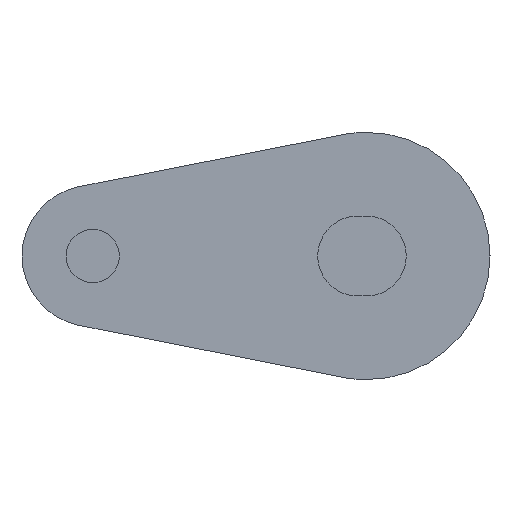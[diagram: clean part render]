
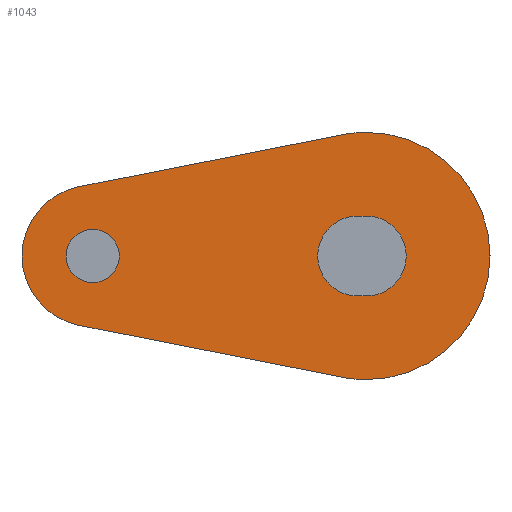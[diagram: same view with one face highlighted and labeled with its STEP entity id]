
A CAD part, left-side view. The second image highlights one B-rep face of the part: STEP entity #1043.
In plain terms, the highlighted planar face has unit normal (-1, 0, 0).
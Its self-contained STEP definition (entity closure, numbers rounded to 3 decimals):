
#6 = CIRCLE ( 'NONE', #497, 2.26 ) ;
#23 = VECTOR ( 'NONE', #959, 1000. ) ;
#24 = LINE ( 'NONE', #960, #23 ) ;
#31 = CIRCLE ( 'NONE', #544, 7. ) ;
#46 = CIRCLE ( 'NONE', #506, 1.51 ) ;
#48 = CIRCLE ( 'NONE', #459, 4. ) ;
#49 = CIRCLE ( 'NONE', #436, 7. ) ;
#50 = CIRCLE ( 'NONE', #412, 7. ) ;
#51 = VECTOR ( 'NONE', #980, 1000. ) ;
#52 = LINE ( 'NONE', #974, #51 ) ;
#68 = VECTOR ( 'NONE', #569, 1000. ) ;
#76 = LINE ( 'NONE', #574, #68 ) ;
#101 = CIRCLE ( 'NONE', #448, 1.51 ) ;
#107 = LINE ( 'NONE', #677, #114 ) ;
#114 = VECTOR ( 'NONE', #653, 1000. ) ;
#119 = CIRCLE ( 'NONE', #539, 2.26 ) ;
#205 = EDGE_LOOP ( 'NONE', ( #320, #237, #253, #254, #270, #271 ) ) ;
#225 = ORIENTED_EDGE ( 'NONE', *, *, #404, .T. ) ;
#237 = ORIENTED_EDGE ( 'NONE', *, *, #415, .F. ) ;
#240 = ORIENTED_EDGE ( 'NONE', *, *, #557, .T. ) ;
#241 = ORIENTED_EDGE ( 'NONE', *, *, #541, .T. ) ;
#249 = ORIENTED_EDGE ( 'NONE', *, *, #469, .T. ) ;
#253 = ORIENTED_EDGE ( 'NONE', *, *, #500, .F. ) ;
#254 = ORIENTED_EDGE ( 'NONE', *, *, #530, .F. ) ;
#270 = ORIENTED_EDGE ( 'NONE', *, *, #503, .F. ) ;
#271 = ORIENTED_EDGE ( 'NONE', *, *, #504, .F. ) ;
#296 = EDGE_LOOP ( 'NONE', ( #225, #249, #240, #241 ) ) ;
#297 = EDGE_LOOP ( 'NONE', ( #309, #324 ) ) ;
#309 = ORIENTED_EDGE ( 'NONE', *, *, #417, .T. ) ;
#320 = ORIENTED_EDGE ( 'NONE', *, *, #505, .F. ) ;
#324 = ORIENTED_EDGE ( 'NONE', *, *, #507, .T. ) ;
#346 = FACE_BOUND ( 'NONE', #296, .T. ) ;
#350 = FACE_BOUND ( 'NONE', #297, .T. ) ;
#352 = FACE_OUTER_BOUND ( 'NONE', #205, .T. ) ;
#404 = EDGE_CURVE ( 'NONE', #683, #723, #119, .T. ) ;
#412 = AXIS2_PLACEMENT_3D ( 'NONE', #968, #966, #973 ) ;
#415 = EDGE_CURVE ( 'NONE', #731, #682, #107, .T. ) ;
#417 = EDGE_CURVE ( 'NONE', #684, #689, #101, .T. ) ;
#436 = AXIS2_PLACEMENT_3D ( 'NONE', #1011, #976, #975 ) ;
#448 = AXIS2_PLACEMENT_3D ( 'NONE', #652, #627, #626 ) ;
#459 = AXIS2_PLACEMENT_3D ( 'NONE', #979, #978, #977 ) ;
#469 = EDGE_CURVE ( 'NONE', #723, #672, #76, .T. ) ;
#497 = AXIS2_PLACEMENT_3D ( 'NONE', #948, #931, #930 ) ;
#500 = EDGE_CURVE ( 'NONE', #687, #731, #50, .T. ) ;
#502 = AXIS2_PLACEMENT_3D ( 'NONE', #787, #786, #796 ) ;
#503 = EDGE_CURVE ( 'NONE', #690, #709, #49, .T. ) ;
#504 = EDGE_CURVE ( 'NONE', #718, #690, #52, .T. ) ;
#505 = EDGE_CURVE ( 'NONE', #682, #718, #48, .T. ) ;
#506 = AXIS2_PLACEMENT_3D ( 'NONE', #965, #963, #962 ) ;
#507 = EDGE_CURVE ( 'NONE', #689, #684, #46, .T. ) ;
#530 = EDGE_CURVE ( 'NONE', #709, #687, #31, .T. ) ;
#539 = AXIS2_PLACEMENT_3D ( 'NONE', #660, #659, #703 ) ;
#541 = EDGE_CURVE ( 'NONE', #635, #683, #24, .T. ) ;
#544 = AXIS2_PLACEMENT_3D ( 'NONE', #993, #1004, #1003 ) ;
#557 = EDGE_CURVE ( 'NONE', #672, #635, #6, .T. ) ;
#569 = DIRECTION ( 'NONE',  ( 0., -1., 0. ) ) ;
#574 = CARTESIAN_POINT ( 'NONE',  ( -478.5, 0.5, 2.26 ) ) ;
#626 = DIRECTION ( 'NONE',  ( 0., 0., -1. ) ) ;
#627 = DIRECTION ( 'NONE',  ( 1., 0., 0. ) ) ;
#635 = VERTEX_POINT ( 'NONE', #921 ) ;
#652 = CARTESIAN_POINT ( 'NONE',  ( -478.5, 15.5, 0. ) ) ;
#653 = DIRECTION ( 'NONE',  ( 0., 0.981, 0.194 ) ) ;
#659 = DIRECTION ( 'NONE',  ( 1., 0., 0. ) ) ;
#660 = CARTESIAN_POINT ( 'NONE',  ( -478.5, 0.5, 0. ) ) ;
#672 = VERTEX_POINT ( 'NONE', #880 ) ;
#677 = CARTESIAN_POINT ( 'NONE',  ( -478.5, 1.355, -6.868 ) ) ;
#682 = VERTEX_POINT ( 'NONE', #884 ) ;
#683 = VERTEX_POINT ( 'NONE', #883 ) ;
#684 = VERTEX_POINT ( 'NONE', #882 ) ;
#687 = VERTEX_POINT ( 'NONE', #886 ) ;
#689 = VERTEX_POINT ( 'NONE', #889 ) ;
#690 = VERTEX_POINT ( 'NONE', #888 ) ;
#703 = DIRECTION ( 'NONE',  ( 0., 0., -1. ) ) ;
#709 = VERTEX_POINT ( 'NONE', #861 ) ;
#718 = VERTEX_POINT ( 'NONE', #858 ) ;
#723 = VERTEX_POINT ( 'NONE', #857 ) ;
#731 = VERTEX_POINT ( 'NONE', #915 ) ;
#780 = PLANE ( 'NONE',  #502 ) ;
#786 = DIRECTION ( 'NONE',  ( -1., 0., 0. ) ) ;
#787 = CARTESIAN_POINT ( 'NONE',  ( -478.5, 15.5, 0. ) ) ;
#796 = DIRECTION ( 'NONE',  ( 0., 0., -1. ) ) ;
#857 = CARTESIAN_POINT ( 'NONE',  ( -478.5, 0.5, 2.26 ) ) ;
#858 = CARTESIAN_POINT ( 'NONE',  ( -478.5, 16.274, 3.924 ) ) ;
#861 = CARTESIAN_POINT ( 'NONE',  ( -478.5, 0., 7. ) ) ;
#880 = CARTESIAN_POINT ( 'NONE',  ( -478.5, 0., 2.26 ) ) ;
#882 = CARTESIAN_POINT ( 'NONE',  ( -478.5, 15.5, -1.51 ) ) ;
#883 = CARTESIAN_POINT ( 'NONE',  ( -478.5, 0.5, -2.26 ) ) ;
#884 = CARTESIAN_POINT ( 'NONE',  ( -478.5, 16.274, -3.924 ) ) ;
#886 = CARTESIAN_POINT ( 'NONE',  ( -478.5, 0., -7. ) ) ;
#888 = CARTESIAN_POINT ( 'NONE',  ( -478.5, 1.355, 6.868 ) ) ;
#889 = CARTESIAN_POINT ( 'NONE',  ( -478.5, 15.5, 1.51 ) ) ;
#915 = CARTESIAN_POINT ( 'NONE',  ( -478.5, 1.355, -6.868 ) ) ;
#921 = CARTESIAN_POINT ( 'NONE',  ( -478.5, 0., -2.26 ) ) ;
#930 = DIRECTION ( 'NONE',  ( 0., 0., -1. ) ) ;
#931 = DIRECTION ( 'NONE',  ( 1., 0., 0. ) ) ;
#948 = CARTESIAN_POINT ( 'NONE',  ( -478.5, 0., 0. ) ) ;
#959 = DIRECTION ( 'NONE',  ( 0., 1., 0. ) ) ;
#960 = CARTESIAN_POINT ( 'NONE',  ( -478.5, 0.5, -2.26 ) ) ;
#962 = DIRECTION ( 'NONE',  ( 0., 0., -1. ) ) ;
#963 = DIRECTION ( 'NONE',  ( 1., 0., 0. ) ) ;
#965 = CARTESIAN_POINT ( 'NONE',  ( -478.5, 15.5, 0. ) ) ;
#966 = DIRECTION ( 'NONE',  ( 1., 0., 0. ) ) ;
#968 = CARTESIAN_POINT ( 'NONE',  ( -478.5, 0., 0. ) ) ;
#973 = DIRECTION ( 'NONE',  ( 0., 0., -1. ) ) ;
#974 = CARTESIAN_POINT ( 'NONE',  ( -478.5, 16.274, 3.924 ) ) ;
#975 = DIRECTION ( 'NONE',  ( 0., 0., -1. ) ) ;
#976 = DIRECTION ( 'NONE',  ( 1., 0., 0. ) ) ;
#977 = DIRECTION ( 'NONE',  ( 0., 0., -1. ) ) ;
#978 = DIRECTION ( 'NONE',  ( 1., 0., 0. ) ) ;
#979 = CARTESIAN_POINT ( 'NONE',  ( -478.5, 15.5, 0. ) ) ;
#980 = DIRECTION ( 'NONE',  ( 0., -0.981, 0.194 ) ) ;
#993 = CARTESIAN_POINT ( 'NONE',  ( -478.5, 0., 0. ) ) ;
#1003 = DIRECTION ( 'NONE',  ( 0., 0., -1. ) ) ;
#1004 = DIRECTION ( 'NONE',  ( 1., 0., 0. ) ) ;
#1011 = CARTESIAN_POINT ( 'NONE',  ( -478.5, 0., 0. ) ) ;
#1043 = ADVANCED_FACE ( 'NONE', ( #346, #350, #352 ), #780, .T. ) ;
